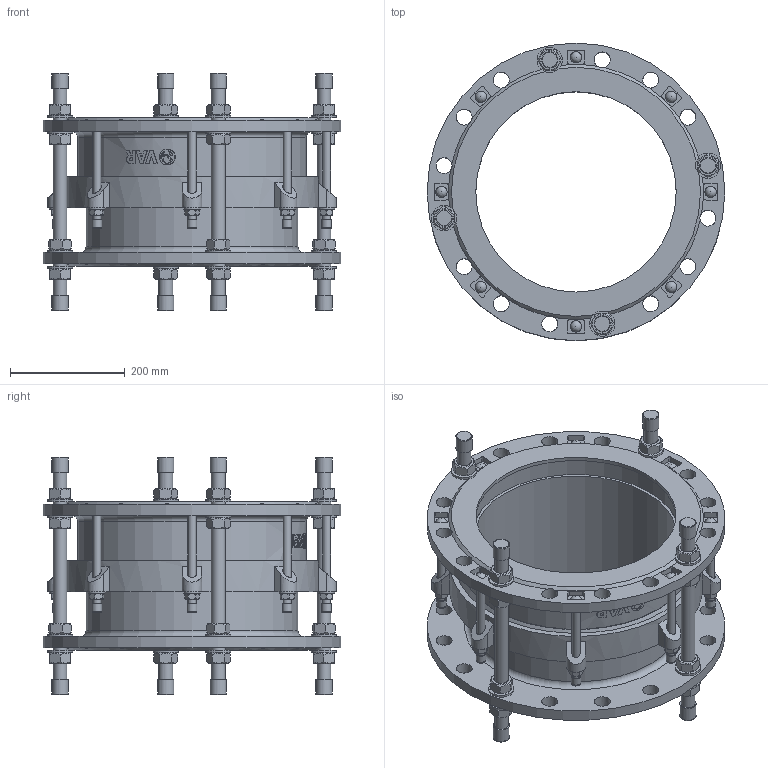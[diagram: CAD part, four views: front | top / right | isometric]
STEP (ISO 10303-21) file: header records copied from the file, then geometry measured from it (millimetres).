
FILE_DESCRIPTION(('STEP AP242'), '1');
FILE_NAME('Ìîíòàæíàÿ âñòàâêà', '', ('UNSPECIFIED'), ('UNSPECIFIED'), 'C3D Converter', 'C3D Toolkit', '');
FILE_SCHEMA(('AP242_MANAGED_MODEL_BASED_3D_ENGINEERING_MIM_LF { 1 0 10303 442 1 1 4 }'));
Length unit declared in the file: millimetre
Products named in the file (13): ШМ.М16.310
Assembly tree (80 placements, depth 2):
  (unnamed)
    (unnamed)
    (unnamed)
    (unnamed)
    (unnamed)  x16
    (unnamed)  x16
    ШМ.М16.310  x4
    (unnamed)  x8
    (unnamed)
    (unnamed)  x8
    (unnamed)  x8
    (unnamed)  x8
    (unnamed)  x8
Bounding box: 520 x 520 x 414.8 mm (x, y, z)
Volume: 11426360.1 mm3; surface area: 2077026.1 mm2
Topology: 80 solids, 80 shells, 907 faces, 2053 edges, 1305 vertices
Faces by surface type: plane 534, cylinder 218, cone 118, torus 18, extrusion 11, sphere 8
Full cylindrical faces by diameter (mm): 14 x24, 15 x8, 16 x8, 16.8 x8, 24 x28, 25 x16, 27.455 x1, 28 x40, 28.8 x8, 44 x16, 350 x2, 370 x2, 380 x2, 400 x1, 420 x1, 422 x1, 442 x1, 520 x2
Entity records: 21677 total; most frequent: CARTESIAN_POINT 10665, DIRECTION 1816, ORIENTED_EDGE 1646, EDGE_CURVE 823, AXIS2_PLACEMENT_3D 727, VERTEX_POINT 596, EDGE_LOOP 519, FACE_BOUND 389
